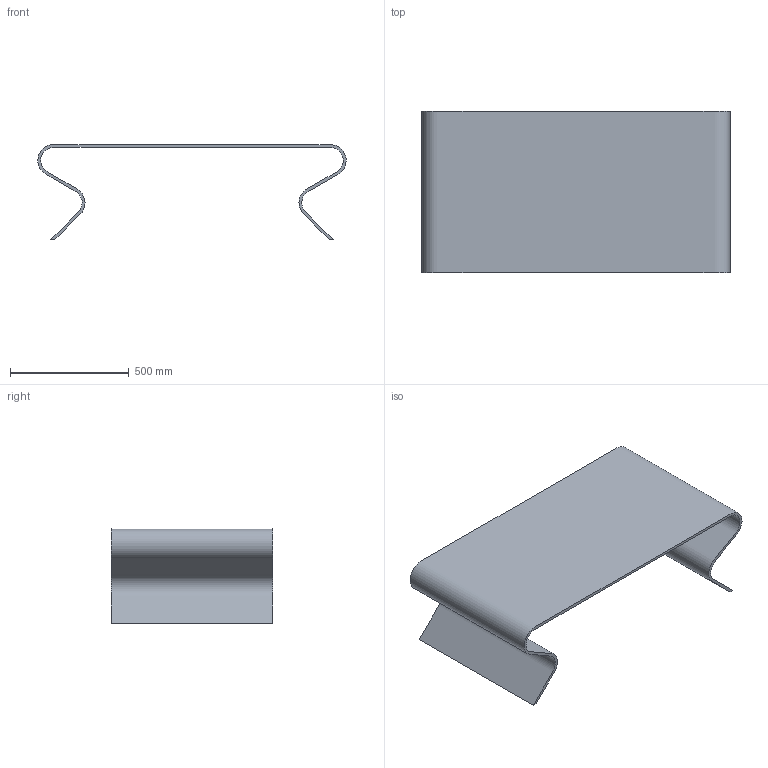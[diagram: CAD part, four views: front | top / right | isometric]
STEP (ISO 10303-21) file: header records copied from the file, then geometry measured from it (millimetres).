
FILE_DESCRIPTION(/* description */ (''),/* implementation_level */ '2;1');
FILE_NAME(/* name */ '1550 - Charlotte 130x68',/* time_stamp */ '2010-11-03T17:24:19+01:00',/* author */ (''),/* organization */ (''),/* preprocessor_version */ 'ST-DEVELOPER v10',/* originating_system */ '',/* authorisation */ '');
FILE_SCHEMA (('CONFIG_CONTROL_DESIGN'));
Length unit declared in the file: centimetre
Products named in the file (1): 1
Bounding box: 1299.45 x 680 x 400.1 mm (x, y, z)
Volume: 19407004.9 mm3; surface area: 3220584.3 mm2
Topology: 1 solids, 1 shells, 7 faces, 15 edges, 10 vertices
Faces by surface type: plane 4, bspline 3
Entity records: 443 total; most frequent: CARTESIAN_POINT 254, ORIENTED_EDGE 30, EDGE_CURVE 15, VERTEX_POINT 10, B_SPLINE_CURVE_WITH_KNOTS 9, DIRECTION 8, ADVANCED_FACE 7, FACE_OUTER_BOUND 7
